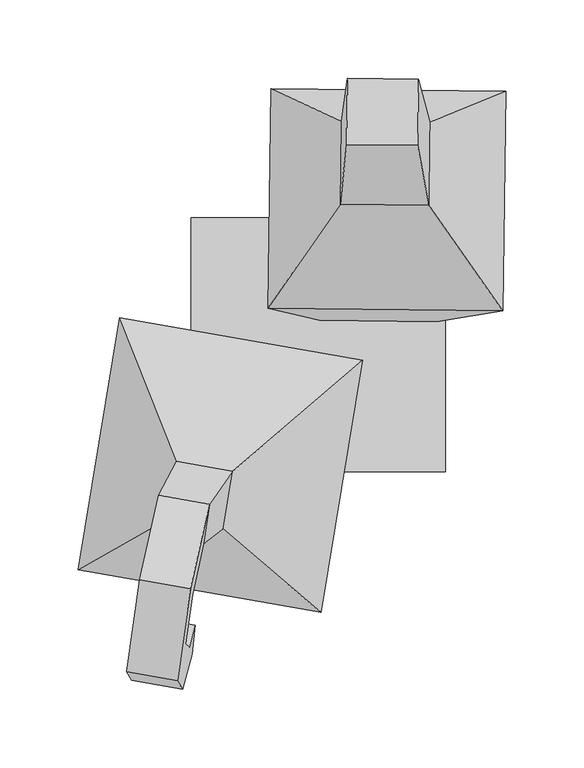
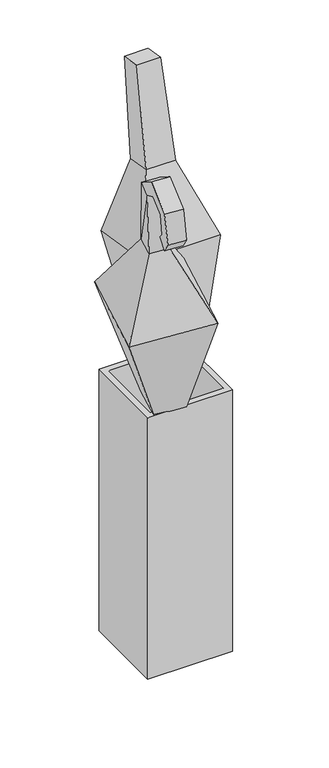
"""IFC4 building model written with IfcOpenShell, lengths in millimetres: geographic element geometry, Enscape AssetDefinition - Umbrella Holder 001 : Enscape AssetDefinition - Umbrella Holder 001."""

from ifc_helpers import new_model, si_unit, origin, place, context, project, spatial, triangles, source, transform, mapped, element, save


def geographic_element_5743c0c4(model_context):
    return source(origin(), model_context, "Body", "Tessellation", [
        triangles([(18.7330862, 170.0351518, 1077.4885191), (18.2131552, 127.636804, 1084.8232458), (64.1312372, 169.5596539, 1077.9579672), (14.0833212, 89.7014015, 896.8068151), (119.8192307, 161.7480849, 745.7855101), (-30.2260961, 163.3196823, 744.2338606), (14.7332509, 142.7006829, 887.6381887), (118.1008036, 21.6173737, 770.0274897), (71.4823601, 142.106306, 888.2249989), (63.6113062, 127.1612971, 1085.2926939), (70.8324316, 89.1069974, 897.3936253), (76.2463544, 84.3357407, 522.3822495), (75.3935267, 14.7910087, 534.4130922), (-31.9445254, 23.1889643, 768.4759855), (0.9283293, 15.5709632, 533.6431174), (1.7811593, 85.1156894, 521.6122384), (28.2951933, -9.857112, 773.6544485), (-10.1905344, -86.9547396, 531.361716), (1.8918465, -170.7674654, 748.2702421), (-60.8155148, -117.6596696, 890.0453093), (-126.9290257, 17.3567315, 762.6023615), (-57.3949387, -18.0195885, 536.6134666), (-153.332374, -143.5535832, 737.2181551), (-96.4736263, -111.408098, 887.5063654), (-73.1652606, -127.042518, 1017.925367), (-105.7348433, -121.3324378, 1015.6065405), (-101.9997788, -96.0881756, 1025.3079105), (-90.4082352, -74.4437936, 893.3376955), (-80.2961163, -159.8431322, 1037.3111023), (-81.6081728, -155.7422742, 1065.8365414), (-69.4301779, -101.7982558, 1027.626737), (-89.9862315, -214.7163089, 1038.2907663), (-112.8657035, -154.1330338, 1034.9921305), (-117.1768139, -185.3807812, 1018.5985817), (-82.1208686, -193.118027, 981.0058908), (-86.6203578, -220.1546761, 977.6271727), (-84.6072176, -191.0908796, 1020.9175535), (-113.2953193, -191.9109059, 948.0041262), (-80.7256958, -197.6210406, 950.323316), (-78.7206219, -179.2568636, 967.3807051), (-119.1899632, -214.4445595, 975.3082735), (-111.2902092, -173.5467834, 965.0618059), (-114.690474, -187.4079104, 978.6868464), (-122.5558278, -209.0062287, 1035.9718672), (-114.17776, -150.0321304, 1063.5174242), (-54.7501283, -80.6953651, 895.8765667), (-0.5154332, -27.9916758, 540.6633648), (-67.0700386, -76.9826466, 527.3118178), (81.2355484, -81.2355393, -5.2e-06), (81.2355484, -81.2354939, 530.7388979), (-81.2355393, -81.2355393, -5.2e-06), (-81.2355393, 81.2355302, 0.0), (81.2355393, 81.2355302, 2.6e-06), (70.4041419, 70.4041783, 530.7388979), (81.2355393, 81.2355756, 530.7388979), (-81.2355393, -81.2354939, 530.7388979), (-81.2355393, 81.2355756, 530.7388979), (-70.4041283, -70.4040965, 530.7388979), (-70.4041192, 70.4041783, 530.7389342), (-70.4041283, 70.4041419, 34.2070395), (70.4041419, -70.4040829, 530.7388979), (70.4041419, 70.4041419, 34.2070418), (70.4041419, -70.4041101, 34.207035), (-70.4041283, -70.4041101, 34.2070304)], [[63, 62, 64], [62, 60, 64], [59, 64, 60], [59, 58, 64], [58, 63, 64], [58, 61, 63], [61, 62, 63], [54, 59, 60], [61, 54, 62], [54, 60, 62], [55, 59, 54], [55, 57, 59], [57, 58, 59], [57, 56, 58], [56, 61, 58], [52, 56, 57], [50, 55, 54], [56, 50, 61], [50, 54, 61], [49, 55, 50], [53, 52, 57], [49, 53, 55], [53, 57, 55], [52, 51, 56], [51, 49, 50], [51, 52, 53], [51, 50, 56], [51, 53, 49], [18, 48, 22], [18, 22, 47], [22, 21, 47], [21, 17, 47], [47, 17, 18], [17, 46, 20], [17, 21, 46], [31, 27, 45], [27, 31, 46], [46, 31, 20], [31, 45, 30], [30, 45, 44], [45, 34, 44], [44, 34, 43], [43, 40, 42], [41, 43, 42], [44, 43, 41], [38, 42, 40], [41, 42, 38], [39, 38, 40], [43, 35, 40], [35, 39, 40], [34, 35, 43], [36, 41, 38], [35, 36, 39], [36, 38, 39], [32, 44, 41], [32, 41, 36], [30, 44, 32], [34, 37, 35], [37, 32, 36], [37, 36, 35], [45, 33, 34], [33, 37, 34], [27, 33, 45], [33, 29, 37], [29, 30, 32], [29, 32, 37], [25, 31, 30], [31, 25, 20], [25, 30, 29], [26, 25, 29], [27, 26, 33], [26, 29, 33], [26, 27, 28], [21, 28, 46], [28, 27, 46], [25, 26, 24], [20, 25, 24], [24, 26, 28], [23, 21, 22], [23, 24, 28], [48, 23, 22], [21, 23, 28], [19, 23, 48], [17, 19, 18], [19, 20, 24], [18, 19, 48], [23, 19, 24], [19, 17, 20], [16, 12, 13], [15, 16, 13], [15, 14, 16], [8, 14, 15], [13, 8, 15], [5, 8, 13], [12, 5, 13], [14, 6, 16], [6, 5, 12], [16, 6, 12], [6, 14, 4], [14, 8, 11], [14, 11, 4], [11, 10, 4], [8, 5, 9], [8, 9, 11], [5, 6, 7], [6, 4, 7], [5, 7, 9], [7, 1, 9], [1, 3, 9], [3, 10, 11], [9, 3, 11], [2, 1, 7], [10, 2, 4], [2, 10, 3], [4, 2, 7], [2, 3, 1]]),
    ])


if __name__ == "__main__":
    model = new_model("IFC4")
    model_context = context("Model", 3, world=origin())
    ifc_project = project(units=[si_unit("LENGTHUNIT", "METRE", prefix="MILLI")], contexts=[model_context])
    site = spatial("IfcSite", under=ifc_project)
    building = spatial("IfcBuilding", under=site)
    placement = place(None, origin())
    geographic_element_shape = geographic_element_5743c0c4(model_context)
    element("IfcGeographicElement", 1, ObjectType="Enscape AssetDefinition - Umbrella Holder 001 : Enscape AssetDefinition - Umbrella Holder 001", at=placement, inside=building, context=model_context, shape_type="MappedRepresentation", body=[
        mapped(geographic_element_shape, transform((0.0, 0.0, 0.0), x_axis=(1.0, 0.0, 0.0), y_axis=(0.0, 1.0, 0.0), z_axis=(0.0, 0.0, 1.0))),
    ])
    save(model, "model.ifc")
